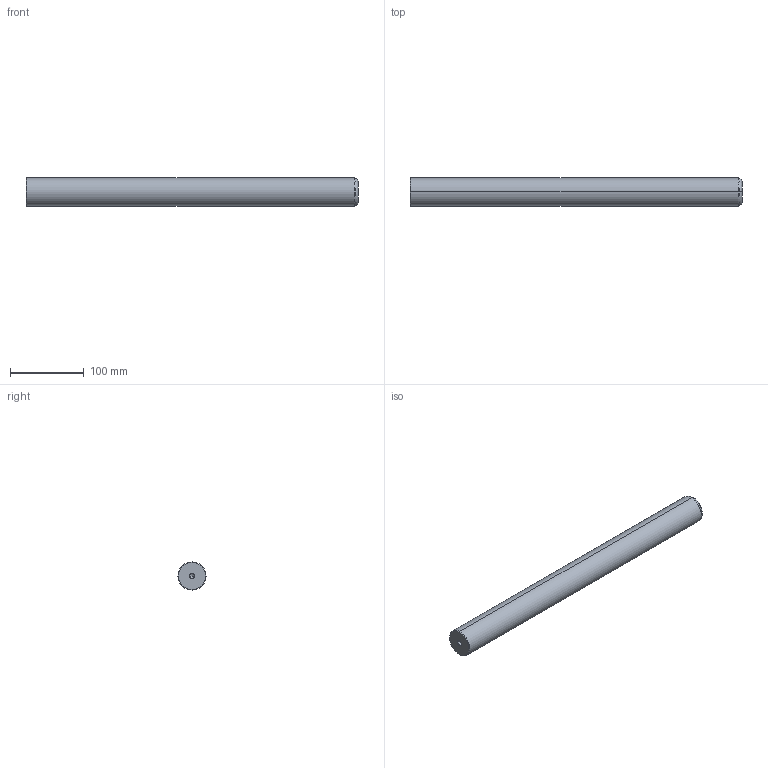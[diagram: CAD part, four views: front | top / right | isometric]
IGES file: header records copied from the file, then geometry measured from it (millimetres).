
Start section: START RECORD GO HERE.
Global section: file name: 720-38x450.igs; native system: DASSAULT SYSTEMES CATIA V5 R20 - www.3ds.com; preprocessor: CATIA Version 5 Release 20 ; author: Utente; organization: NB04-ASUS; date: 20210101.125935; units: millimetre
Bounding box: 450 x 38 x 38 mm (x, y, z)
Surface area: 56676 mm2 (no closed solid volume)
Topology: 0 solids, 0 shells, 22 faces, 120 edges, 116 vertices
Faces by surface type: revolution 20, plane 2
